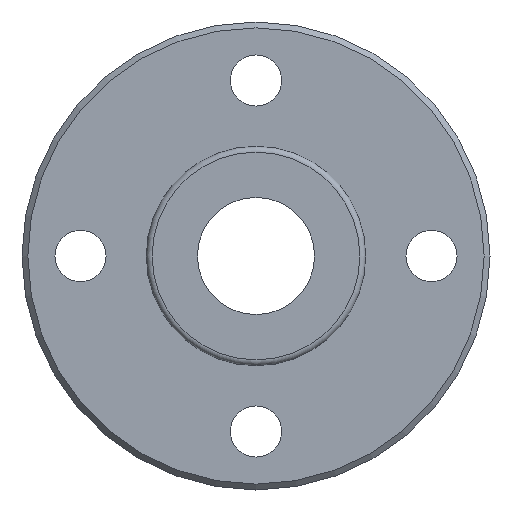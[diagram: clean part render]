
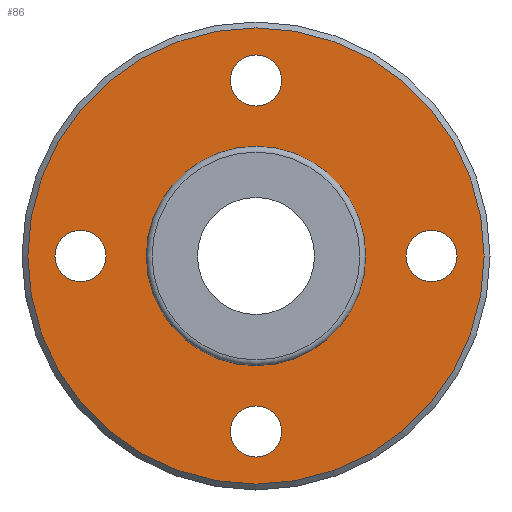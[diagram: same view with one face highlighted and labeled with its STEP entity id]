
A CAD part, left-side view. The second image highlights one B-rep face of the part: STEP entity #86.
In plain terms, the highlighted planar face has unit normal (-1, 0, 0).
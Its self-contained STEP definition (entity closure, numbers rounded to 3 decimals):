
#86=ADVANCED_FACE('',(#137,#138,#139,#140,#141,#142),#143,.T.);
#137=FACE_OUTER_BOUND('',#229,.T.);
#138=FACE_BOUND('',#230,.T.);
#139=FACE_BOUND('',#231,.T.);
#140=FACE_BOUND('',#232,.T.);
#141=FACE_BOUND('',#233,.T.);
#142=FACE_BOUND('',#234,.T.);
#143=PLANE('',#235);
#229=EDGE_LOOP('',(#343));
#230=EDGE_LOOP('',(#344));
#231=EDGE_LOOP('',(#345));
#232=EDGE_LOOP('',(#346));
#233=EDGE_LOOP('',(#347));
#234=EDGE_LOOP('',(#348));
#235=AXIS2_PLACEMENT_3D('',#349,#350,#351);
#343=ORIENTED_EDGE('',*,*,#454,.T.);
#344=ORIENTED_EDGE('',*,*,#455,.F.);
#345=ORIENTED_EDGE('',*,*,#456,.T.);
#346=ORIENTED_EDGE('',*,*,#452,.T.);
#347=ORIENTED_EDGE('',*,*,#450,.T.);
#348=ORIENTED_EDGE('',*,*,#457,.T.);
#349=CARTESIAN_POINT('',(-5.0,0.,11.475));
#350=DIRECTION('',(-1.0,0.,0.));
#351=DIRECTION('',(0.,-1.0,0.));
#450=EDGE_CURVE('',#496,#496,#497,.T.);
#452=EDGE_CURVE('',#500,#500,#501,.T.);
#454=EDGE_CURVE('',#504,#504,#505,.T.);
#455=EDGE_CURVE('',#506,#506,#507,.T.);
#456=EDGE_CURVE('',#508,#508,#509,.T.);
#457=EDGE_CURVE('',#510,#510,#511,.T.);
#496=VERTEX_POINT('',#560);
#497=CIRCLE('',#561,1.75);
#500=VERTEX_POINT('',#564);
#501=CIRCLE('',#565,1.75);
#504=VERTEX_POINT('',#568);
#505=CIRCLE('',#569,15.6);
#506=VERTEX_POINT('',#570);
#507=CIRCLE('',#571,7.35);
#508=VERTEX_POINT('',#572);
#509=CIRCLE('',#573,1.75);
#510=VERTEX_POINT('',#574);
#511=CIRCLE('',#575,1.75);
#560=CARTESIAN_POINT('',(-5.0,10.25,0.));
#561=AXIS2_PLACEMENT_3D('',#638,#639,#640);
#564=CARTESIAN_POINT('',(-5.0,-1.75,-12.0));
#565=AXIS2_PLACEMENT_3D('',#644,#645,#646);
#568=CARTESIAN_POINT('',(-5.,0.,15.6));
#569=AXIS2_PLACEMENT_3D('',#650,#651,#652);
#570=CARTESIAN_POINT('',(-5.0,0.,7.35));
#571=AXIS2_PLACEMENT_3D('',#653,#654,#655);
#572=CARTESIAN_POINT('',(-5.0,-1.75,12.0));
#573=AXIS2_PLACEMENT_3D('',#656,#657,#658);
#574=CARTESIAN_POINT('',(-5.0,-13.75,0.));
#575=AXIS2_PLACEMENT_3D('',#659,#660,#661);
#638=CARTESIAN_POINT('',(-5.0,12.0,0.));
#639=DIRECTION('',(1.0,0.,0.));
#640=DIRECTION('',(0.,1.0,0.));
#644=CARTESIAN_POINT('',(-5.0,0.,-12.0));
#645=DIRECTION('',(1.0,0.,0.));
#646=DIRECTION('',(0.,1.0,0.));
#650=CARTESIAN_POINT('',(-5.0,0.,0.));
#651=DIRECTION('',(-1.0,0.,0.));
#652=DIRECTION('',(0.,0.0,1.0));
#653=CARTESIAN_POINT('',(-5.0,0.,0.));
#654=DIRECTION('',(-1.0,0.,0.));
#655=DIRECTION('',(0.,0.0,1.0));
#656=CARTESIAN_POINT('',(-5.0,0.,12.0));
#657=DIRECTION('',(1.0,0.,0.));
#658=DIRECTION('',(0.,1.0,0.));
#659=CARTESIAN_POINT('',(-5.0,-12.0,0.));
#660=DIRECTION('',(1.0,0.,0.));
#661=DIRECTION('',(0.,1.0,0.));
